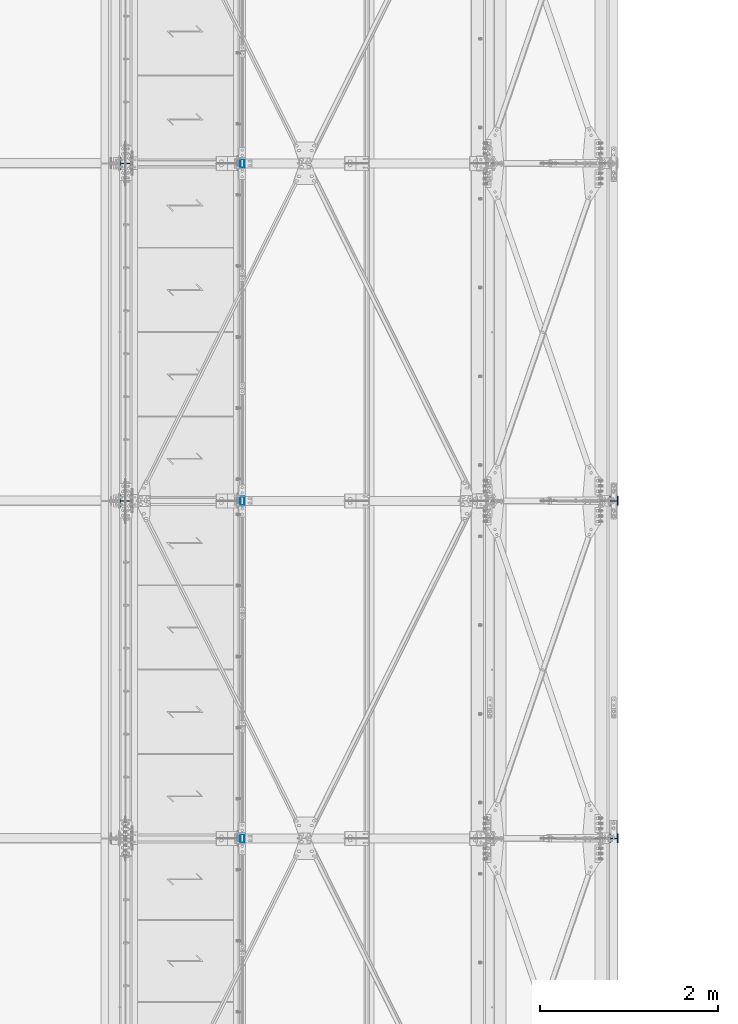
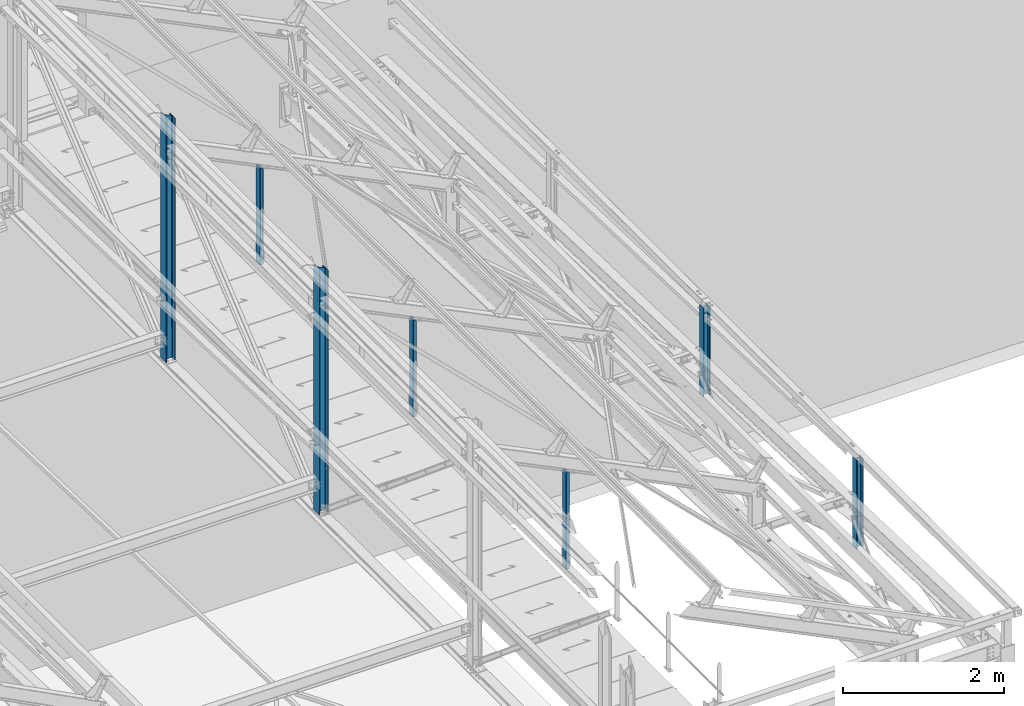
# One storey, part 17 of 362: 7 columns, 7 elements without a shape of their own.
"""IFC2X3 building model written with IfcOpenShell, lengths in millimetres."""

from ifc_helpers import new_model, si_unit, frame, origin_with_axes, origin_2d_with_axis, place, context, subcontext, project, spatial, hollow_rectangle, i_section, extrude, clip, halfspace, material, type_object, element, aggregate, save


model = new_model("IFC2X3")

# Units and contexts
model_context = context("Model", 3, precision=1e-05, world=origin_with_axes())
body_context = subcontext(model_context, "Body", "Model", "MODEL_VIEW")
ifc_project = project(units=[si_unit("LENGTHUNIT", "METRE", prefix="MILLI"), si_unit("AREAUNIT", "SQUARE_METRE"), si_unit("VOLUMEUNIT", "CUBIC_METRE"), si_unit("MASSUNIT", "GRAM", prefix="KILO"), si_unit("TIMEUNIT", "SECOND"), si_unit("PLANEANGLEUNIT", "RADIAN"), si_unit("SOLIDANGLEUNIT", "STERADIAN"), si_unit("THERMODYNAMICTEMPERATUREUNIT", "DEGREE_CELSIUS"), si_unit("LUMINOUSINTENSITYUNIT", "LUMEN")], contexts=[model_context])

# Site, building, storey
site_placement = place(None, origin_with_axes())
site = spatial("IfcSite", under=ifc_project, at=site_placement, Name="Undefined", CompositionType="ELEMENT")
building_placement = place(site_placement, origin_with_axes())
building = spatial("IfcBuilding", under=site, at=building_placement, Name="Undefined", CompositionType="ELEMENT")
storey_placement = place(building_placement, origin_with_axes())
storey = spatial("IfcBuildingStorey", under=building, at=storey_placement, Name="Undefined", CompositionType="ELEMENT", Elevation=0.0)

# Assembly, column
assembly_1_placement = place(storey_placement, origin_with_axes())
assembly_1 = element("IfcElementAssembly", 1, at=assembly_1_placement, inside=storey, Name="MONTANT", AssemblyPlace="NOTDEFINED", PredefinedType="NOTDEFINED")
ifc_material_1 = material(Name="Undefined/S275-E28")
column_type_1 = type_object("IfcColumnType", Name="HEA140", PredefinedType="NOTDEFINED")
column_1_placement = place(assembly_1_placement, frame((34280.0, 11400.0, 7260.0), z_axis=(0.0, 0.0, 1.0), x_axis=(-1.0, 0.0, 0.0)))
column_1 = element("IfcColumn", 2, at=column_1_placement, type_object=column_type_1, material=ifc_material_1, Name="MONTANT", ObjectType="HEA140", context=body_context, shape_type="Clipping", body=[
    clip(extrude(i_section(OverallWidth=140.0, OverallDepth=133.0, WebThickness=5.5, FlangeThickness=8.5, FilletRadius=12.0, at=origin_2d_with_axis()), frame((0.0, 0.0, 3730.84210522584), z_axis=(0.0, 0.0, -1.0), x_axis=(0.0, 1.0, 0.0)), (0.0, 0.0, 1.0), 3730.84), halfspace(frame((-66.5, 70.0, 3654.3071165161), z_axis=(-0.441220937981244, -6.28179308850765e-09, 0.89739850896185), x_axis=(0.89739850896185, 0.0, 0.441220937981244)), False)),
])
aggregate(assembly_1, [column_1])

assembly_2_placement = place(storey_placement, origin_with_axes())
assembly_2 = element("IfcElementAssembly", 3, at=assembly_2_placement, inside=storey, Name="MONTANT", AssemblyPlace="NOTDEFINED", PredefinedType="NOTDEFINED")
column_2_placement = place(assembly_2_placement, frame((34280.0, 7600.0, 7260.0), z_axis=(0.0, 0.0, 1.0), x_axis=(-1.0, 0.0, 0.0)))
column_2 = element("IfcColumn", 4, at=column_2_placement, type_object=column_type_1, material=ifc_material_1, Name="MONTANT", ObjectType="HEA140", context=body_context, shape_type="Clipping", body=[
    clip(extrude(i_section(OverallWidth=140.0, OverallDepth=133.0, WebThickness=5.5, FlangeThickness=8.5, FilletRadius=12.0, at=origin_2d_with_axis()), frame((0.0, 0.0, 3730.84210522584), z_axis=(0.0, 0.0, -1.0), x_axis=(0.0, 1.0, 0.0)), (0.0, 0.0, 1.0), 3730.84), halfspace(frame((-66.5, 70.0, 3654.3071165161), z_axis=(-0.441220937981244, -6.28179308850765e-09, 0.89739850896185), x_axis=(0.89739850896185, 0.0, 0.441220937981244)), False)),
])
aggregate(assembly_2, [column_2])

assembly_3_placement = place(storey_placement, origin_with_axes())
assembly_3 = element("IfcElementAssembly", 5, at=assembly_3_placement, inside=storey, AssemblyPlace="NOTDEFINED", PredefinedType="NOTDEFINED")
column_type_2 = type_object("IfcColumnType", Name="HEA100", PredefinedType="NOTDEFINED")
column_3_placement = place(assembly_3_placement, frame((39777.0, 3800.0, 7100.00000925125), z_axis=(0.0, 0.0, 1.0), x_axis=(1.0, 0.0, 0.0)))
column_3 = element("IfcColumn", 6, at=column_3_placement, type_object=column_type_2, material=ifc_material_1, Name="BAIONNETTE", ObjectType="HEA100", context=body_context, shape_type="SweptSolid", body=[
    extrude(i_section(OverallWidth=100.0, OverallDepth=96.0, WebThickness=5.0, FlangeThickness=8.0, FilletRadius=12.0, at=origin_2d_with_axis()), frame((0.0, 0.0, 1344.99999074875), z_axis=(0.0, 0.0, -1.0), x_axis=(0.0, 1.0, 0.0)), (0.0, 0.0, 1.0), 1345.0),
])
aggregate(assembly_3, [column_3])

assembly_4_placement = place(storey_placement, origin_with_axes())
assembly_4 = element("IfcElementAssembly", 7, at=assembly_4_placement, inside=storey, AssemblyPlace="NOTDEFINED", PredefinedType="NOTDEFINED")
column_4_placement = place(assembly_4_placement, frame((39777.0, 7600.0, 7100.00037857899), z_axis=(0.0, 0.0, 1.0), x_axis=(1.0, 0.0, 0.0)))
column_4 = element("IfcColumn", 8, at=column_4_placement, type_object=column_type_2, material=ifc_material_1, Name="BAIONNETTE", ObjectType="HEA100", context=body_context, shape_type="SweptSolid", body=[
    extrude(i_section(OverallWidth=100.0, OverallDepth=96.0, WebThickness=5.0, FlangeThickness=8.0, FilletRadius=12.0, at=origin_2d_with_axis()), frame((0.0, 0.0, 1344.99962142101), z_axis=(0.0, 0.0, -1.0), x_axis=(0.0, 1.0, 0.0)), (0.0, 0.0, 1.0), 1345.0),
])
aggregate(assembly_4, [column_4])

assembly_5_placement = place(storey_placement, origin_with_axes())
assembly_5 = element("IfcElementAssembly", 9, at=assembly_5_placement, inside=storey, AssemblyPlace="NOTDEFINED", PredefinedType="NOTDEFINED")
ifc_material_2 = material(Name="Undefined/S235-E24")
column_type_3 = type_object("IfcColumnType", Name="TUBE-R-100*50*3", PredefinedType="NOTDEFINED")
column_5_placement = place(assembly_5_placement, frame((35593.9917140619, 11400.0, 8250.0), z_axis=(0.0, 0.0, 1.0), x_axis=(0.0, -1.0, 0.0)))
column_5 = element("IfcColumn", 10, at=column_5_placement, type_object=column_type_3, material=ifc_material_2, Name="SUSPENTE", ObjectType="TUBE-R-100*50*3", context=body_context, shape_type="Clipping", body=[
    clip(extrude(hollow_rectangle(XDim=50.0, YDim=100.0, WallThickness=3.0, InnerFilletRadius=3.0, OuterFilletRadius=6.0, at=origin_2d_with_axis()), frame((0.0, 0.0, 1472.89728020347), z_axis=(0.0, 0.0, -1.0), x_axis=(0.0, 1.0, 0.0)), (0.0, 0.0, 1.0), 1472.9), halfspace(frame((0.0, -38.9853790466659, 1479.68377536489), z_axis=(0.0, -0.442968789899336, -0.896537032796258), x_axis=(1.0, 0.0, 0.0)), True)),
])
aggregate(assembly_5, [column_5])

assembly_6_placement = place(storey_placement, origin_with_axes())
assembly_6 = element("IfcElementAssembly", 11, at=assembly_6_placement, inside=storey, AssemblyPlace="NOTDEFINED", PredefinedType="NOTDEFINED")
column_6_placement = place(assembly_6_placement, frame((35593.9917140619, 3800.0, 8250.0), z_axis=(0.0, 0.0, 1.0), x_axis=(0.0, -1.0, 0.0)))
column_6 = element("IfcColumn", 12, at=column_6_placement, type_object=column_type_3, material=ifc_material_2, Name="SUSPENTE", ObjectType="TUBE-R-100*50*3", context=body_context, shape_type="Clipping", body=[
    clip(extrude(hollow_rectangle(XDim=50.0, YDim=100.0, WallThickness=3.0, InnerFilletRadius=3.0, OuterFilletRadius=6.0, at=origin_2d_with_axis()), frame((0.0, 0.0, 1472.89728020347), z_axis=(0.0, 0.0, -1.0), x_axis=(0.0, 1.0, 0.0)), (0.0, 0.0, 1.0), 1472.9), halfspace(frame((0.0, -38.9853790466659, 1479.68377536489), z_axis=(0.0, -0.442968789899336, -0.896537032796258), x_axis=(1.0, 0.0, 0.0)), True)),
])
aggregate(assembly_6, [column_6])

assembly_7_placement = place(storey_placement, origin_with_axes())
assembly_7 = element("IfcElementAssembly", 13, at=assembly_7_placement, inside=storey, AssemblyPlace="NOTDEFINED", PredefinedType="NOTDEFINED")
column_7_placement = place(assembly_7_placement, frame((35593.9917140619, 7600.0, 8250.0), z_axis=(0.0, 0.0, 1.0), x_axis=(0.0, -1.0, 0.0)))
column_7 = element("IfcColumn", 14, at=column_7_placement, type_object=column_type_3, material=ifc_material_2, Name="SUSPENTE", ObjectType="TUBE-R-100*50*3", context=body_context, shape_type="Clipping", body=[
    clip(extrude(hollow_rectangle(XDim=50.0, YDim=100.0, WallThickness=3.0, InnerFilletRadius=3.0, OuterFilletRadius=6.0, at=origin_2d_with_axis()), frame((0.0, 0.0, 1472.89728020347), z_axis=(0.0, 0.0, -1.0), x_axis=(0.0, 1.0, 0.0)), (0.0, 0.0, 1.0), 1472.9), halfspace(frame((0.0, -38.9853790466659, 1479.68377536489), z_axis=(0.0, -0.442968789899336, -0.896537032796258), x_axis=(1.0, 0.0, 0.0)), True)),
])
aggregate(assembly_7, [column_7])

save(model, "model.ifc")
